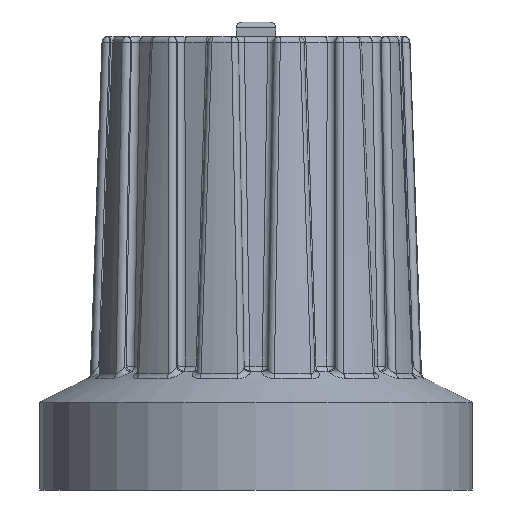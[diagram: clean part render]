
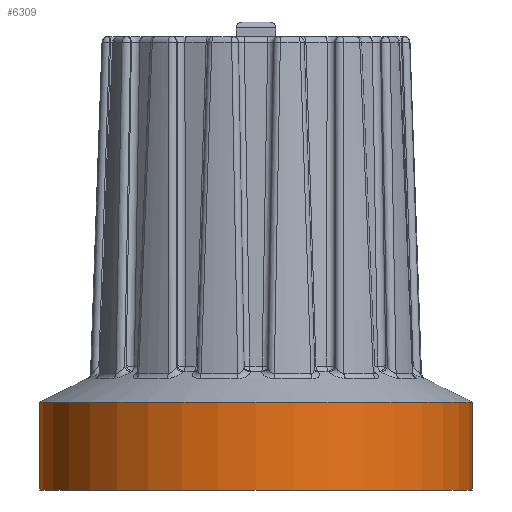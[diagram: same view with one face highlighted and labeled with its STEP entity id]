
A CAD part, front view. The second image highlights one B-rep face of the part: STEP entity #6309.
In plain terms, the highlighted cylindrical face has radius 7.4 mm (diameter 14.8 mm), a full revolution.
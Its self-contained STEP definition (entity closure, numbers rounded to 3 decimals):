
#1571=ORIENTED_EDGE('',*,*,#3554,.F.);
#1572=ORIENTED_EDGE('',*,*,#3470,.T.);
#3470=EDGE_CURVE('NONE',#4462,#4462,#5010,.T.);
#3554=EDGE_CURVE('NONE',#4539,#4539,#5024,.T.);
#4462=VERTEX_POINT('',#9717);
#4539=VERTEX_POINT('',#10171);
#5010=CIRCLE('',#7352,7.4);
#5024=CIRCLE('',#7367,7.4);
#5188=EDGE_LOOP('',(#1571));
#5189=EDGE_LOOP('',(#1572));
#5620=FACE_BOUND('',#5188,.T.);
#5621=FACE_BOUND('',#5189,.T.);
#6034=CYLINDRICAL_SURFACE('',#7366,7.4);
#6309=ADVANCED_FACE('NONE',(#5620,#5621),#6034,.T.);
#7352=AXIS2_PLACEMENT_3D('',#9716,#8013,#8014);
#7366=AXIS2_PLACEMENT_3D('',#10169,#8041,#8042);
#7367=AXIS2_PLACEMENT_3D('',#10170,#8043,#8044);
#8013=DIRECTION('',(0.,0.,-1.));
#8014=DIRECTION('',(-1.,0.,0.));
#8041=DIRECTION('',(0.,0.,-1.));
#8042=DIRECTION('',(-1.,0.,0.));
#8043=DIRECTION('',(0.,0.,-1.));
#8044=DIRECTION('',(-1.,0.,0.));
#9716=CARTESIAN_POINT('',(0.,0.,3.));
#9717=CARTESIAN_POINT('',(-7.4,0.,3.));
#10169=CARTESIAN_POINT('',(0.,0.,0.));
#10170=CARTESIAN_POINT('',(0.,0.,0.));
#10171=CARTESIAN_POINT('',(-7.4,0.,0.));
